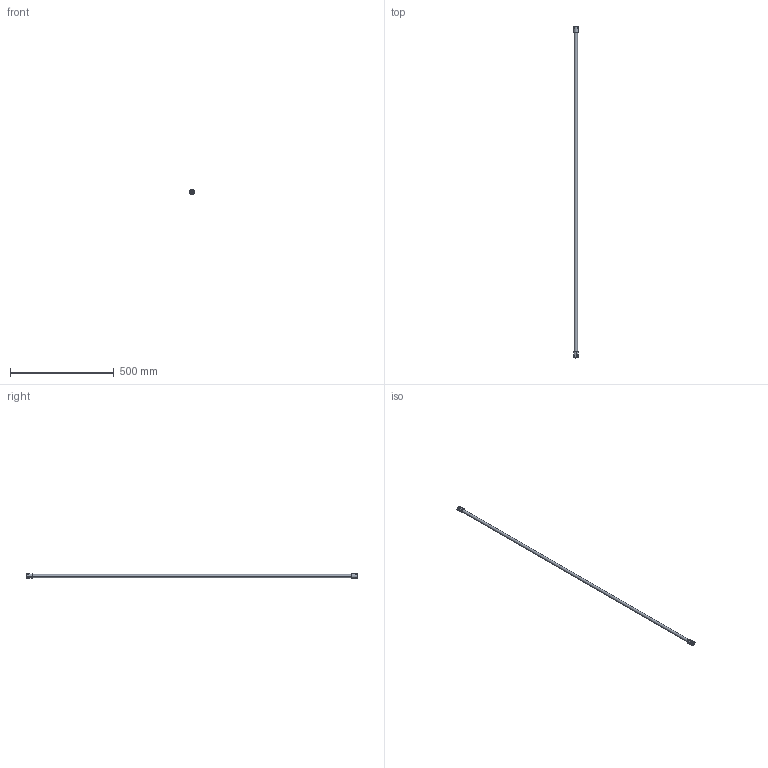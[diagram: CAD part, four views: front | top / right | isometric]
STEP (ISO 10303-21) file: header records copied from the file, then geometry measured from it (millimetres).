
FILE_DESCRIPTION((''),'2;1');
FILE_NAME('H21235-1600_ASM','2022-08-23T14:19:13',('feng_fu'),(''),'CREO PARAMETRIC BY PTC INC, 2021023','CREO PARAMETRIC BY PTC INC, 2021023','');
FILE_SCHEMA(('CONFIG_CONTROL_DESIGN'));
Length unit declared in the file: millimetre
Products named in the file (8): H21235-411-1570; H21195-301; H22055-001; H22055-306; H21263-101_B; H21098-002; 40000613; H21235-1600_ASM
Assembly tree (13 placements, depth 2):
  H21235-1600_ASM
    H21235-411-1570
    H21195-301  x2
    H22055-001  x2
    H22055-306  x2
    H21263-101_B  x2
    H21098-002  x2
    40000613  x2
Bounding box: 22.96 x 1601.8 x 22.96 mm (x, y, z)
Volume: 199159.8 mm3; surface area: 135452.8 mm2
Topology: 13 solids, 13 shells, 390 faces, 856 edges, 516 vertices
Faces by surface type: cylinder 144, bspline 100, plane 54, cone 48, torus 44
Entity records: 11009 total; most frequent: CARTESIAN_POINT 6650, DIRECTION 876, ORIENTED_EDGE 864, EDGE_CURVE 432, AXIS2_PLACEMENT_3D 385, VERTEX_POINT 262, EDGE_LOOP 226, CIRCLE 216
